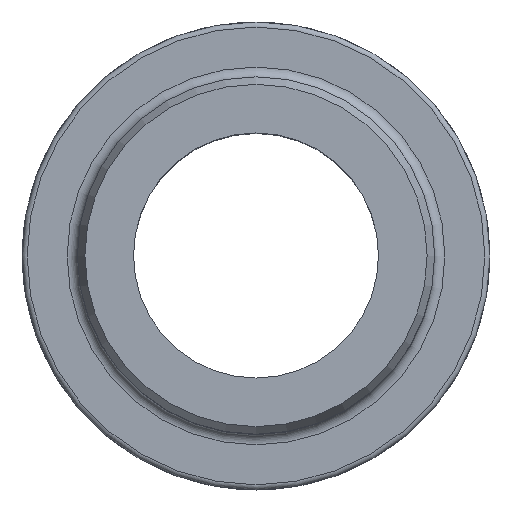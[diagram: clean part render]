
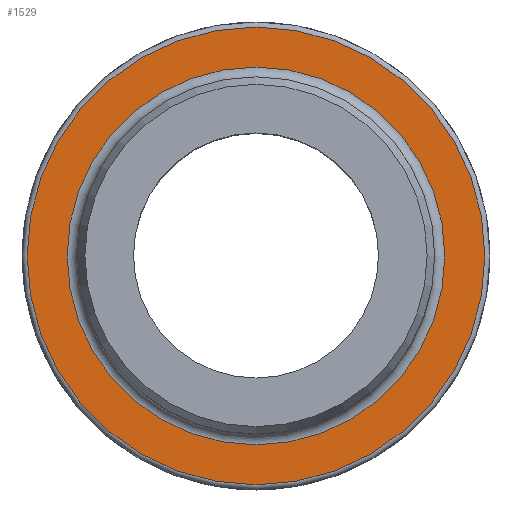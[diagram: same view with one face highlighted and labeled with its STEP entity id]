
A CAD part, top view. The second image highlights one B-rep face of the part: STEP entity #1529.
In plain terms, the highlighted planar face has unit normal (0, 0, 1).
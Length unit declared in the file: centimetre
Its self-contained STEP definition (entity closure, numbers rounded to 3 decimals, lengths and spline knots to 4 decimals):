
#384=PLANE('',#1656);
#464=VERTEX_POINT('',#3721);
#465=VERTEX_POINT('',#3725);
#580=CIRCLE('',#1654,3.4163);
#581=CIRCLE('',#1657,2.8194);
#719=EDGE_CURVE('',#464,#464,#580,.T.);
#720=EDGE_CURVE('',#465,#465,#581,.T.);
#1029=ORIENTED_EDGE('',*,*,#720,.F.);
#1030=ORIENTED_EDGE('',*,*,#719,.F.);
#1309=EDGE_LOOP('',(#1029));
#1310=EDGE_LOOP('',(#1030));
#1422=FACE_BOUND('',#1309,.T.);
#1423=FACE_BOUND('',#1310,.T.);
#1529=ADVANCED_FACE('',(#1422,#1423),#384,.F.);
#1654=AXIS2_PLACEMENT_3D('',#3720,#1876,#1877);
#1656=AXIS2_PLACEMENT_3D('',#3723,#1880,$);
#1657=AXIS2_PLACEMENT_3D('',#3724,#1881,#1882);
#1876=DIRECTION('',(0.,0.,-1.));
#1877=DIRECTION('',(-3.416,0.,0.));
#1880=DIRECTION('',(0.,0.,-1.));
#1881=DIRECTION('',(0.,0.,1.));
#1882=DIRECTION('',(0.,-2.819,0.));
#3720=CARTESIAN_POINT('',(0.,0.,-4.0132));
#3721=CARTESIAN_POINT('',(3.4163,0.,-4.0132));
#3723=CARTESIAN_POINT('',(0.,0.,-4.0132));
#3724=CARTESIAN_POINT('',(0.,0.,-4.0132));
#3725=CARTESIAN_POINT('',(0.,2.8194,-4.0132));
